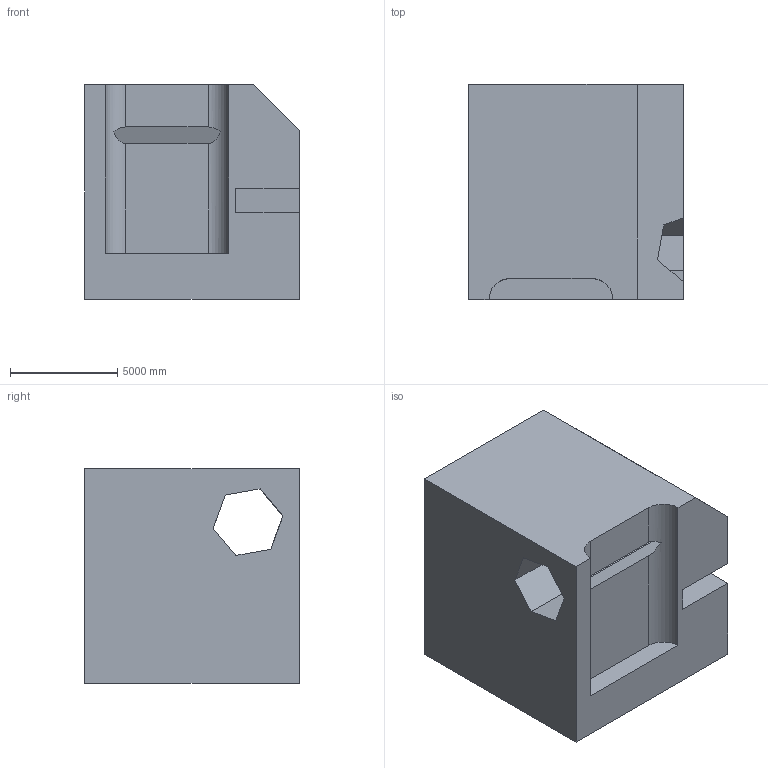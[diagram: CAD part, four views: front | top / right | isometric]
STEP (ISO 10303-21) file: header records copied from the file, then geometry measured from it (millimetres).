
FILE_DESCRIPTION (( 'STEP AP203' ), '1' );
FILE_NAME ('260.STEP', '2022-09-07T12:29:26', ( 'user' ), ( '' ), 'SwSTEP 2.0', 'SolidWorks 2021', '' );
FILE_SCHEMA (( 'CONFIG_CONTROL_DESIGN' ));
Length unit declared in the file: centimetre
Products named in the file (1): 260
Bounding box: 10000 x 10000 x 10000 mm (x, y, z)
Volume: 860852656753.6 mm3; surface area: 675717830.3 mm2
Topology: 1 solids, 1 shells, 22 faces, 69 edges, 46 vertices
Faces by surface type: plane 20, cylinder 2
Entity records: 842 total; most frequent: CARTESIAN_POINT 150, ORIENTED_EDGE 138, DIRECTION 115, EDGE_CURVE 69, VECTOR 61, LINE 61, VERTEX_POINT 46, AXIS2_PLACEMENT_3D 27
